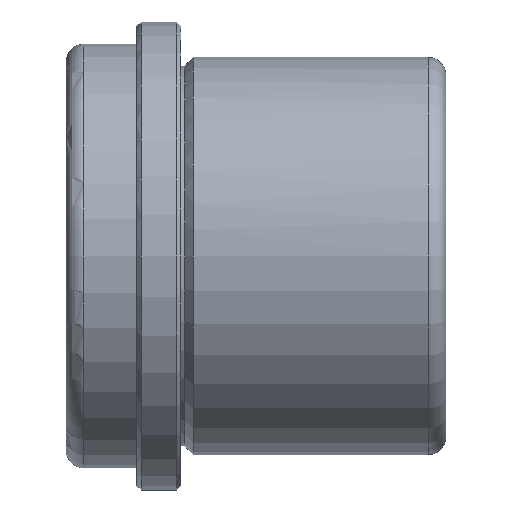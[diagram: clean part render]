
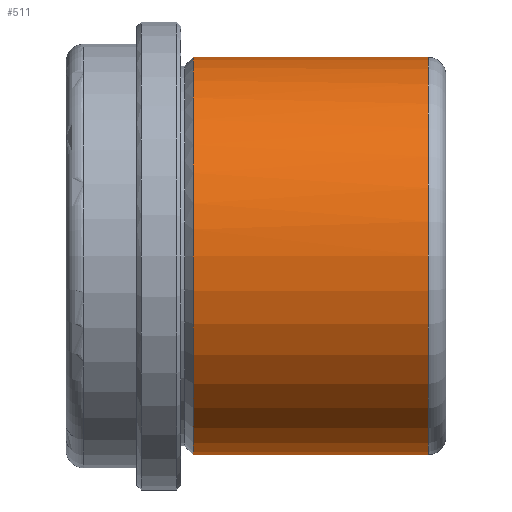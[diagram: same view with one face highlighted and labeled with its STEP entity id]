
A CAD part, front view. The second image highlights one B-rep face of the part: STEP entity #511.
In plain terms, the highlighted cylindrical face has radius 22.5 mm (diameter 45 mm), a partial arc.
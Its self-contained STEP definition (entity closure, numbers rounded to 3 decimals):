
#294=CARTESIAN_POINT('Line Origine',(30.,0.,22.5)) ;
#298=CARTESIAN_POINT('Vertex',(28.,0.,22.5)) ;
#300=CARTESIAN_POINT('Vertex',(1.414,0.,22.5)) ;
#314=CARTESIAN_POINT('Vertex',(28.,0.,-22.5)) ;
#317=CARTESIAN_POINT('Line Origine',(30.,0.,-22.5)) ;
#321=CARTESIAN_POINT('Vertex',(1.414,0.,-22.5)) ;
#471=CARTESIAN_POINT('Axis2P3D Location',(30.,0.,0.)) ;
#476=CARTESIAN_POINT('Axis2P3D Location',(28.,0.,0.)) ;
#480=CARTESIAN_POINT('Vertex',(28.,-22.5,0.)) ;
#483=CARTESIAN_POINT('Axis2P3D Location',(28.,0.,0.)) ;
#489=CARTESIAN_POINT('Control Point',(1.414,0.,22.5)) ;
#490=CARTESIAN_POINT('Control Point',(1.414,-7.069,22.5)) ;
#491=CARTESIAN_POINT('Control Point',(1.414,-14.144,19.732)) ;
#492=CARTESIAN_POINT('Control Point',(1.414,-19.732,14.144)) ;
#493=CARTESIAN_POINT('Control Point',(1.414,-22.5,7.069)) ;
#494=CARTESIAN_POINT('Control Point',(1.414,-22.5,0.)) ;
#495=CARTESIAN_POINT('Vertex',(1.414,-22.5,0.)) ;
#498=CARTESIAN_POINT('Axis2P3D Location',(1.414,0.,0.)) ;
#295=DIRECTION('Vector Direction',(-1.,0.,0.)) ;
#318=DIRECTION('Vector Direction',(-1.,0.,0.)) ;
#472=DIRECTION('Axis2P3D Direction',(-1.,-0.,-0.)) ;
#473=DIRECTION('Axis2P3D XDirection',(0.,0.,-1.)) ;
#477=DIRECTION('Axis2P3D Direction',(-1.,-0.,-0.)) ;
#484=DIRECTION('Axis2P3D Direction',(-1.,-0.,-0.)) ;
#499=DIRECTION('Axis2P3D Direction',(-1.,-0.,-0.)) ;
#474=AXIS2_PLACEMENT_3D('Cylinder Axis2P3D',#471,#472,#473) ;
#478=AXIS2_PLACEMENT_3D('Circle Axis2P3D',#476,#477,$) ;
#485=AXIS2_PLACEMENT_3D('Circle Axis2P3D',#483,#484,$) ;
#500=AXIS2_PLACEMENT_3D('Circle Axis2P3D',#498,#499,$) ;
#504=ORIENTED_EDGE('',*,*,#323,.T.) ;
#505=ORIENTED_EDGE('',*,*,#482,.F.) ;
#506=ORIENTED_EDGE('',*,*,#487,.F.) ;
#507=ORIENTED_EDGE('',*,*,#302,.T.) ;
#508=ORIENTED_EDGE('',*,*,#497,.T.) ;
#509=ORIENTED_EDGE('',*,*,#502,.T.) ;
#296=VECTOR('Line Direction',#295,1.) ;
#319=VECTOR('Line Direction',#318,1.) ;
#511=ADVANCED_FACE('FAMO-SF1-A30 x 43',(#510),#475,.T.) ;
#488=B_SPLINE_CURVE_WITH_KNOTS('',5,(#489,#490,#491,#492,#493,#494),.UNSPECIFIED.,.F.,.U.,(6,6),(-17.671,17.671),.UNSPECIFIED.) ;
#479=CIRCLE('generated circle',#478,22.5) ;
#486=CIRCLE('generated circle',#485,22.5) ;
#501=CIRCLE('generated circle',#500,22.5) ;
#475=CYLINDRICAL_SURFACE('generated cylinder',#474,22.5) ;
#302=EDGE_CURVE('',#299,#301,#297,.T.) ;
#323=EDGE_CURVE('',#322,#315,#320,.F.) ;
#482=EDGE_CURVE('',#481,#315,#479,.F.) ;
#487=EDGE_CURVE('',#299,#481,#486,.F.) ;
#497=EDGE_CURVE('',#301,#496,#488,.T.) ;
#502=EDGE_CURVE('',#496,#322,#501,.F.) ;
#503=EDGE_LOOP('',(#504,#505,#506,#507,#508,#509)) ;
#510=FACE_OUTER_BOUND('',#503,.T.) ;
#297=LINE('Line',#294,#296) ;
#320=LINE('Line',#317,#319) ;
#299=VERTEX_POINT('',#298) ;
#301=VERTEX_POINT('',#300) ;
#315=VERTEX_POINT('',#314) ;
#322=VERTEX_POINT('',#321) ;
#481=VERTEX_POINT('',#480) ;
#496=VERTEX_POINT('',#495) ;
